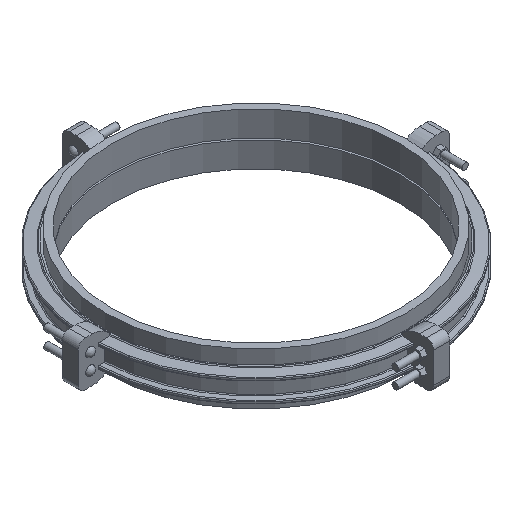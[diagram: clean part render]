
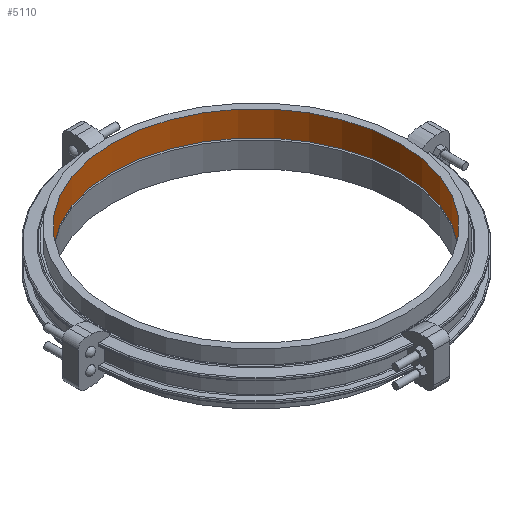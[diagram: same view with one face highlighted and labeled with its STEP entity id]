
A CAD part, isometric view. The second image highlights one B-rep face of the part: STEP entity #5110.
In plain terms, the highlighted cylindrical face has radius 1016 mm (diameter 2032 mm), a full revolution.
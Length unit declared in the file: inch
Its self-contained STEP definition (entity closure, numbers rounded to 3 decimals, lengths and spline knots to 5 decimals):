
#568=LINE('',#9777,#911);
#911=VECTOR('',#7164,40.);
#1000=CYLINDRICAL_SURFACE('',#5737,40.);
#1282=FACE_OUTER_BOUND('',#1592,.T.);
#1592=EDGE_LOOP('',(#4398,#4399,#4400,#4401,#4402,#4403));
#1847=CIRCLE('',#5735,40.);
#1848=CIRCLE('',#5736,40.);
#1849=CIRCLE('',#5738,40.);
#1850=CIRCLE('',#5739,40.);
#2319=VERTEX_POINT('',#9771);
#2320=VERTEX_POINT('',#9772);
#2321=VERTEX_POINT('',#9776);
#2322=VERTEX_POINT('',#9778);
#3013=EDGE_CURVE('',#2319,#2320,#1847,.T.);
#3014=EDGE_CURVE('',#2320,#2319,#1848,.T.);
#3015=EDGE_CURVE('',#2320,#2321,#568,.T.);
#3016=EDGE_CURVE('',#2322,#2321,#1849,.T.);
#3017=EDGE_CURVE('',#2321,#2322,#1850,.T.);
#4398=ORIENTED_EDGE('',*,*,#3013,.T.);
#4399=ORIENTED_EDGE('',*,*,#3015,.T.);
#4400=ORIENTED_EDGE('',*,*,#3016,.F.);
#4401=ORIENTED_EDGE('',*,*,#3017,.F.);
#4402=ORIENTED_EDGE('',*,*,#3015,.F.);
#4403=ORIENTED_EDGE('',*,*,#3014,.T.);
#5110=ADVANCED_FACE('',(#1282),#1000,.F.);
#5735=AXIS2_PLACEMENT_3D('',#9773,#7158,#7159);
#5736=AXIS2_PLACEMENT_3D('',#9774,#7160,#7161);
#5737=AXIS2_PLACEMENT_3D('',#9775,#7162,#7163);
#5738=AXIS2_PLACEMENT_3D('',#9779,#7165,#7166);
#5739=AXIS2_PLACEMENT_3D('',#9780,#7167,#7168);
#7158=DIRECTION('center_axis',(0.,0.,-1.));
#7159=DIRECTION('ref_axis',(1.,0.,0.));
#7160=DIRECTION('center_axis',(0.,0.,-1.));
#7161=DIRECTION('ref_axis',(1.,0.,0.));
#7162=DIRECTION('center_axis',(0.,0.,-1.));
#7163=DIRECTION('ref_axis',(0.,1.,0.));
#7164=DIRECTION('',(0.,0.,1.));
#7165=DIRECTION('center_axis',(0.,0.,-1.));
#7166=DIRECTION('ref_axis',(1.,0.,0.));
#7167=DIRECTION('center_axis',(0.,0.,-1.));
#7168=DIRECTION('ref_axis',(1.,0.,0.));
#9771=CARTESIAN_POINT('',(0.,40.,0.));
#9772=CARTESIAN_POINT('',(0.,-40.,0.));
#9773=CARTESIAN_POINT('Origin',(0.,0.,0.));
#9774=CARTESIAN_POINT('Origin',(0.,0.,0.));
#9775=CARTESIAN_POINT('Origin',(0.,0.,3.5));
#9776=CARTESIAN_POINT('',(0.,-40.,7.));
#9777=CARTESIAN_POINT('',(0.,-40.,3.5));
#9778=CARTESIAN_POINT('',(0.,40.,7.));
#9779=CARTESIAN_POINT('Origin',(0.,0.,7.));
#9780=CARTESIAN_POINT('Origin',(0.,0.,7.));
